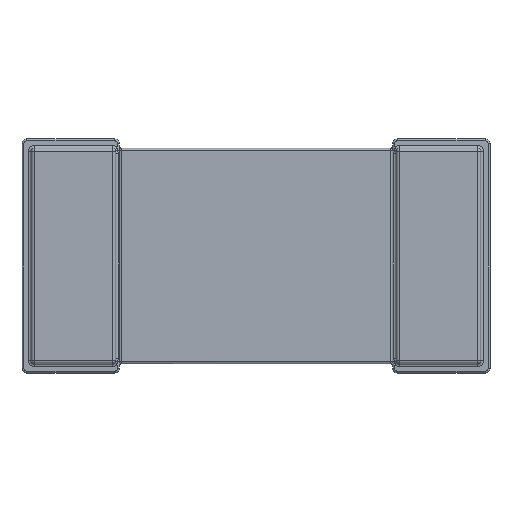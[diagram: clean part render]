
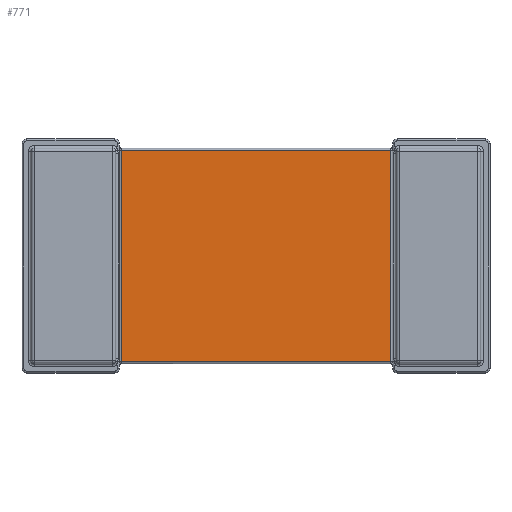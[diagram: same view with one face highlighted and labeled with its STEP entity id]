
A CAD part, top view. The second image highlights one B-rep face of the part: STEP entity #771.
In plain terms, the highlighted planar face has unit normal (0, 0, 1).
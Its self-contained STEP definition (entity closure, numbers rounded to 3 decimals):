
#771=ADVANCED_FACE('',(#2721),#2723,.T.);
#2721=FACE_BOUND('',#2722,.T.);
#2722=EDGE_LOOP('',(#5378,#5379,#5380,#5381));
#2723=PLANE('',#2724);
#2724=AXIS2_PLACEMENT_3D('',#2725,#2726,#2727);
#2725=CARTESIAN_POINT('',(-1.46,1.15,0.365));
#2726=DIRECTION('',(0.,0.,1.));
#2727=DIRECTION('',(0.,-1.,0.));
#5378=ORIENTED_EDGE('',*,*,#6395,.F.);
#5379=ORIENTED_EDGE('',*,*,#6396,.T.);
#5380=ORIENTED_EDGE('',*,*,#6397,.T.);
#5381=ORIENTED_EDGE('',*,*,#6398,.F.);
#6395=EDGE_CURVE('',#7178,#7179,#7180,.T.);
#6396=EDGE_CURVE('',#7178,#7181,#7182,.T.);
#6397=EDGE_CURVE('',#7181,#7183,#7184,.T.);
#6398=EDGE_CURVE('',#7179,#7183,#7185,.T.);
#7178=VERTEX_POINT('',#8759);
#7179=VERTEX_POINT('',#8760);
#7180=LINE('',#8761,#8762);
#7181=VERTEX_POINT('',#8764);
#7182=LINE('',#8765,#8766);
#7183=VERTEX_POINT('',#8768);
#7184=LINE('',#8769,#8770);
#7185=LINE('',#8772,#8773);
#8759=CARTESIAN_POINT('',(-1.44,1.13,0.365));
#8760=CARTESIAN_POINT('',(1.44,1.13,0.365));
#8761=CARTESIAN_POINT('',(-1.44,1.13,0.365));
#8762=VECTOR('',#8763,1.);
#8763=DIRECTION('',(1.,0.,0.));
#8764=CARTESIAN_POINT('',(-1.44,-1.13,0.365));
#8765=CARTESIAN_POINT('',(-1.441,1.13,0.365));
#8766=VECTOR('',#8767,1.);
#8767=DIRECTION('',(0.,-1.,0.));
#8768=CARTESIAN_POINT('',(1.44,-1.13,0.365));
#8769=CARTESIAN_POINT('',(-1.44,-1.13,0.365));
#8770=VECTOR('',#8771,1.);
#8771=DIRECTION('',(1.,0.,0.));
#8772=CARTESIAN_POINT('',(1.441,1.13,0.365));
#8773=VECTOR('',#8774,1.);
#8774=DIRECTION('',(0.,-1.,0.));
